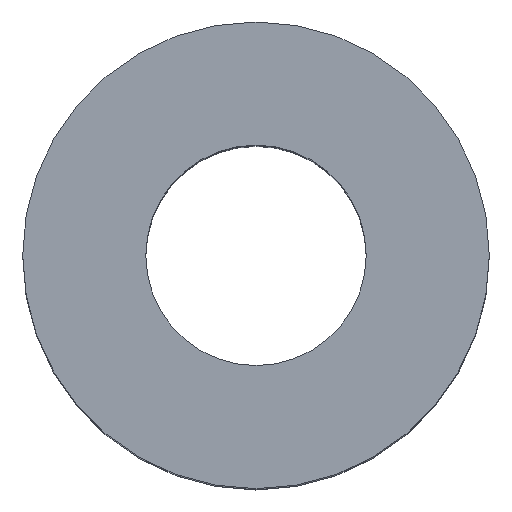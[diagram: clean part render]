
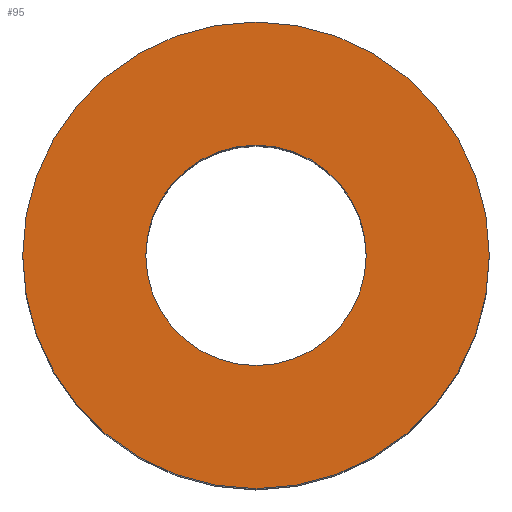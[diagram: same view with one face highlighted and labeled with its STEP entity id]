
A CAD part, top view. The second image highlights one B-rep face of the part: STEP entity #95.
In plain terms, the highlighted planar face has unit normal (0, 0, 1).
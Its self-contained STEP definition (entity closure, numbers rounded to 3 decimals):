
#95=ADVANCED_FACE('NONE',(#203,#204),#205,.T.);
#203=FACE_OUTER_BOUND('',#325,.T.);
#204=FACE_BOUND('',#326,.T.);
#205=PLANE('',#327);
#325=EDGE_LOOP('',(#525,#526));
#326=EDGE_LOOP('',(#527,#528));
#327=AXIS2_PLACEMENT_3D('',#529,#530,#531);
#525=ORIENTED_EDGE('',*,*,#736,.T.);
#526=ORIENTED_EDGE('',*,*,#750,.T.);
#527=ORIENTED_EDGE('',*,*,#751,.F.);
#528=ORIENTED_EDGE('',*,*,#690,.F.);
#529=CARTESIAN_POINT('',(0.9,0.0,0.0));
#530=DIRECTION('',(0.0,0.0,1.0));
#531=DIRECTION('',(1.0,-0.0,0.0));
#690=EDGE_CURVE('NONE',#808,#810,#811,.T.);
#736=EDGE_CURVE('NONE',#882,#880,#883,.T.);
#750=EDGE_CURVE('NONE',#880,#882,#901,.T.);
#751=EDGE_CURVE('NONE',#810,#808,#902,.T.);
#808=VERTEX_POINT('NONE',#963);
#810=VERTEX_POINT('NONE',#966);
#811=CIRCLE('',#967,0.85);
#880=VERTEX_POINT('NONE',#1057);
#882=VERTEX_POINT('NONE',#1060);
#883=CIRCLE('',#1061,1.8);
#901=CIRCLE('',#1082,1.8);
#902=CIRCLE('',#1083,0.85);
#963=CARTESIAN_POINT('',(-0.85,0.,0.0));
#966=CARTESIAN_POINT('',(0.85,0.0,0.0));
#967=AXIS2_PLACEMENT_3D('',#1138,#1139,#1140);
#1057=CARTESIAN_POINT('',(-1.8,0.,0.0));
#1060=CARTESIAN_POINT('',(1.8,0.0,0.0));
#1061=AXIS2_PLACEMENT_3D('',#1199,#1200,#1201);
#1082=AXIS2_PLACEMENT_3D('',#1223,#1224,#1225);
#1083=AXIS2_PLACEMENT_3D('',#1226,#1227,#1228);
#1138=CARTESIAN_POINT('',(0.0,0.0,0.0));
#1139=DIRECTION('',(0.0,0.0,1.0));
#1140=DIRECTION('',(1.0,0.0,0.0));
#1199=CARTESIAN_POINT('',(0.0,0.0,0.0));
#1200=DIRECTION('',(0.0,0.0,1.0));
#1201=DIRECTION('',(1.0,0.0,0.0));
#1223=CARTESIAN_POINT('',(0.0,0.0,0.0));
#1224=DIRECTION('',(0.0,0.0,1.0));
#1225=DIRECTION('',(1.0,0.0,0.0));
#1226=CARTESIAN_POINT('',(0.0,0.0,0.0));
#1227=DIRECTION('',(0.0,0.0,1.0));
#1228=DIRECTION('',(1.0,0.0,0.0));
